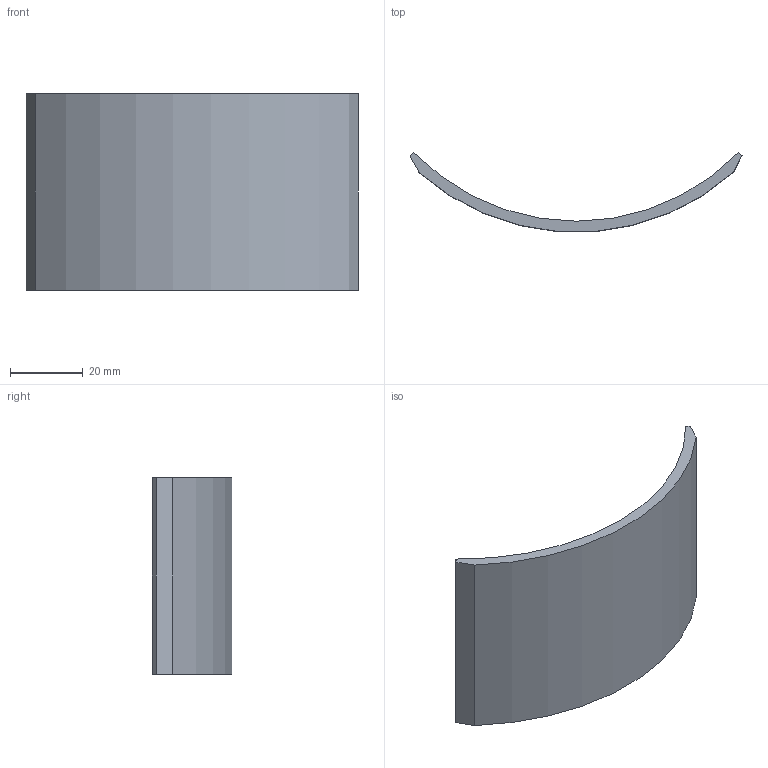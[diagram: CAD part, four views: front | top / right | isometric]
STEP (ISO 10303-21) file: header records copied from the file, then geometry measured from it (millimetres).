
FILE_DESCRIPTION(('Open CASCADE Model'),'2;1');
FILE_NAME('Open CASCADE Shape Model','2026-10-05T09:59:25',('Author'),( 'Open CASCADE'),'Open CASCADE STEP processor 7.9','Open CASCADE 7.9' ,'Unknown');
FILE_SCHEMA(('AUTOMOTIVE_DESIGN { 1 0 10303 214 1 1 1 1 }'));
Length unit declared in the file: millimetre
Products named in the file (1): Open CASCADE STEP translator 7.9 2
Bounding box: 91.22 x 21.73 x 54 mm (x, y, z)
Volume: 16059.6 mm3; surface area: 11780.6 mm2
Topology: 1 solids, 1 shells, 14 faces, 32 edges, 20 vertices
Faces by surface type: plane 12, cylinder 2
Entity records: 826 total; most frequent: CARTESIAN_POINT 155, DIRECTION 126, LINE 88, VECTOR 88, ORIENTED_EDGE 64, PCURVE 64, DEFINITIONAL_REPRESENTATION 64, EDGE_CURVE 32
